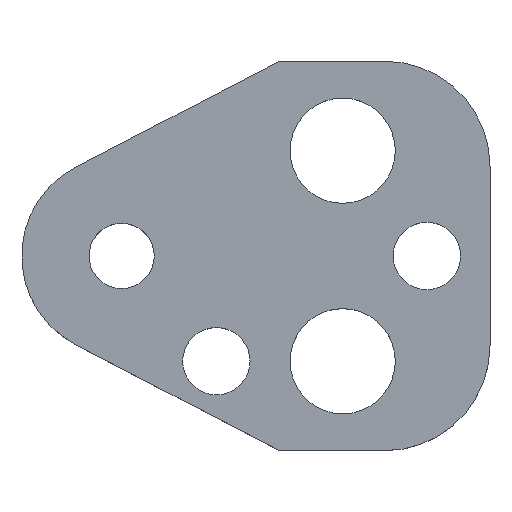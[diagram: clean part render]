
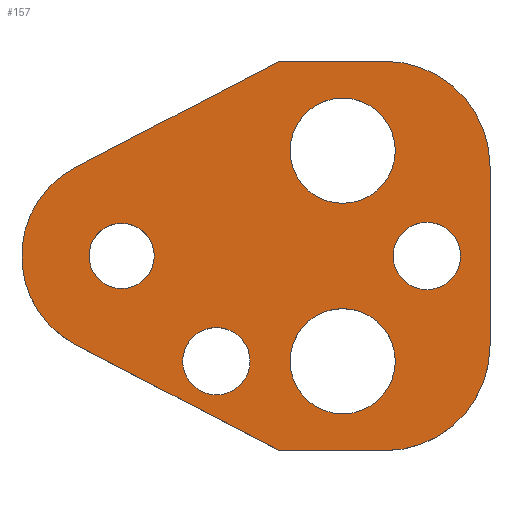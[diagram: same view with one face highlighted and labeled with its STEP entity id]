
A CAD part, top view. The second image highlights one B-rep face of the part: STEP entity #157.
In plain terms, the highlighted planar face has unit normal (0, 0, 1).
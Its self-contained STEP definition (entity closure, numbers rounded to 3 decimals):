
#103=FACE_BOUND('',#207,.T.);
#104=FACE_BOUND('',#208,.T.);
#105=FACE_BOUND('',#209,.T.);
#106=FACE_BOUND('',#210,.T.);
#107=FACE_BOUND('',#211,.T.);
#108=FACE_BOUND('',#212,.T.);
#122=CIRCLE('',#480,10.);
#124=CIRCLE('',#484,10.);
#127=CIRCLE('',#490,9.5);
#138=CIRCLE('',#503,3.2);
#139=CIRCLE('',#504,3.2);
#140=CIRCLE('',#505,5.);
#141=CIRCLE('',#506,5.);
#142=CIRCLE('',#507,5.);
#143=CIRCLE('',#508,5.);
#144=CIRCLE('',#509,3.2);
#145=CIRCLE('',#510,3.2);
#146=CIRCLE('',#511,3.1);
#147=CIRCLE('',#512,3.1);
#157=ADVANCED_FACE('',(#103,#104,#105,#106,#107,#108),#174,.T.);
#174=PLANE('',#513);
#207=EDGE_LOOP('',(#273,#274,#275,#276,#277,#278,#279,#280));
#208=EDGE_LOOP('',(#281,#282));
#209=EDGE_LOOP('',(#283,#284));
#210=EDGE_LOOP('',(#285,#286));
#211=EDGE_LOOP('',(#287,#288));
#212=EDGE_LOOP('',(#289,#290));
#273=ORIENTED_EDGE('',*,*,#368,.T.);
#274=ORIENTED_EDGE('',*,*,#372,.T.);
#275=ORIENTED_EDGE('',*,*,#375,.T.);
#276=ORIENTED_EDGE('',*,*,#378,.T.);
#277=ORIENTED_EDGE('',*,*,#381,.T.);
#278=ORIENTED_EDGE('',*,*,#384,.T.);
#279=ORIENTED_EDGE('',*,*,#387,.T.);
#280=ORIENTED_EDGE('',*,*,#390,.T.);
#281=ORIENTED_EDGE('',*,*,#401,.T.);
#282=ORIENTED_EDGE('',*,*,#402,.T.);
#283=ORIENTED_EDGE('',*,*,#403,.T.);
#284=ORIENTED_EDGE('',*,*,#404,.T.);
#285=ORIENTED_EDGE('',*,*,#405,.T.);
#286=ORIENTED_EDGE('',*,*,#406,.T.);
#287=ORIENTED_EDGE('',*,*,#407,.T.);
#288=ORIENTED_EDGE('',*,*,#408,.T.);
#289=ORIENTED_EDGE('',*,*,#409,.T.);
#290=ORIENTED_EDGE('',*,*,#410,.T.);
#332=VERTEX_POINT('',#649);
#333=VERTEX_POINT('',#651);
#336=VERTEX_POINT('',#658);
#338=VERTEX_POINT('',#664);
#340=VERTEX_POINT('',#670);
#342=VERTEX_POINT('',#676);
#344=VERTEX_POINT('',#682);
#346=VERTEX_POINT('',#688);
#357=VERTEX_POINT('',#717);
#358=VERTEX_POINT('',#718);
#359=VERTEX_POINT('',#721);
#360=VERTEX_POINT('',#722);
#361=VERTEX_POINT('',#725);
#362=VERTEX_POINT('',#726);
#363=VERTEX_POINT('',#729);
#364=VERTEX_POINT('',#730);
#365=VERTEX_POINT('',#733);
#366=VERTEX_POINT('',#734);
#368=EDGE_CURVE('',#333,#332,#422,.T.);
#372=EDGE_CURVE('',#332,#336,#426,.T.);
#375=EDGE_CURVE('',#336,#338,#122,.T.);
#378=EDGE_CURVE('',#338,#340,#430,.T.);
#381=EDGE_CURVE('',#340,#342,#124,.T.);
#384=EDGE_CURVE('',#342,#344,#434,.T.);
#387=EDGE_CURVE('',#344,#346,#437,.T.);
#390=EDGE_CURVE('',#346,#333,#127,.T.);
#401=EDGE_CURVE('',#357,#358,#138,.T.);
#402=EDGE_CURVE('',#358,#357,#139,.T.);
#403=EDGE_CURVE('',#359,#360,#140,.T.);
#404=EDGE_CURVE('',#360,#359,#141,.T.);
#405=EDGE_CURVE('',#361,#362,#142,.T.);
#406=EDGE_CURVE('',#362,#361,#143,.T.);
#407=EDGE_CURVE('',#363,#364,#144,.T.);
#408=EDGE_CURVE('',#364,#363,#145,.T.);
#409=EDGE_CURVE('',#365,#366,#146,.T.);
#410=EDGE_CURVE('',#366,#365,#147,.T.);
#422=LINE('',#650,#450);
#426=LINE('',#659,#454);
#430=LINE('',#671,#458);
#434=LINE('',#683,#462);
#437=LINE('',#689,#465);
#450=VECTOR('',#527,1.);
#454=VECTOR('',#533,1.);
#458=VECTOR('',#545,1.);
#462=VECTOR('',#557,1.);
#465=VECTOR('',#562,1.);
#480=AXIS2_PLACEMENT_3D('',#665,#538,#539);
#484=AXIS2_PLACEMENT_3D('',#677,#550,#551);
#490=AXIS2_PLACEMENT_3D('',#693,#568,#569);
#503=AXIS2_PLACEMENT_3D('',#716,#594,#595);
#504=AXIS2_PLACEMENT_3D('',#719,#596,#597);
#505=AXIS2_PLACEMENT_3D('',#720,#598,#599);
#506=AXIS2_PLACEMENT_3D('',#723,#600,#601);
#507=AXIS2_PLACEMENT_3D('',#724,#602,#603);
#508=AXIS2_PLACEMENT_3D('',#727,#604,#605);
#509=AXIS2_PLACEMENT_3D('',#728,#606,#607);
#510=AXIS2_PLACEMENT_3D('',#731,#608,#609);
#511=AXIS2_PLACEMENT_3D('',#732,#610,#611);
#512=AXIS2_PLACEMENT_3D('',#735,#612,#613);
#513=AXIS2_PLACEMENT_3D('',#736,#614,#615);
#527=DIRECTION('',(0.887,-0.461,0.));
#533=DIRECTION('',(1.,0.,0.));
#538=DIRECTION('',(0.,0.,1.));
#539=DIRECTION('',(-0.707,0.707,0.));
#545=DIRECTION('',(0.,1.,0.));
#550=DIRECTION('',(0.,0.,1.));
#551=DIRECTION('',(-0.707,-0.707,0.));
#557=DIRECTION('',(-1.,0.,0.));
#562=DIRECTION('',(-0.887,-0.461,0.));
#568=DIRECTION('',(0.,0.,1.));
#569=DIRECTION('',(1.,0.,0.));
#594=DIRECTION('',(0.,0.,-1.));
#595=DIRECTION('',(-1.,0.,0.));
#596=DIRECTION('',(0.,0.,-1.));
#597=DIRECTION('',(1.,0.,0.));
#598=DIRECTION('',(0.,0.,-1.));
#599=DIRECTION('',(-1.,0.,0.));
#600=DIRECTION('',(0.,0.,-1.));
#601=DIRECTION('',(1.,0.,0.));
#602=DIRECTION('',(0.,0.,-1.));
#603=DIRECTION('',(-1.,0.,0.));
#604=DIRECTION('',(0.,0.,-1.));
#605=DIRECTION('',(1.,0.,0.));
#606=DIRECTION('',(0.,0.,-1.));
#607=DIRECTION('',(-1.,0.,0.));
#608=DIRECTION('',(0.,0.,-1.));
#609=DIRECTION('',(1.,0.,0.));
#610=DIRECTION('',(0.,0.,-1.));
#611=DIRECTION('',(-1.,0.,0.));
#612=DIRECTION('',(0.,0.,-1.));
#613=DIRECTION('',(1.,0.,0.));
#614=DIRECTION('',(0.,0.,1.));
#615=DIRECTION('',(0.887,-0.461,0.));
#649=CARTESIAN_POINT('',(15.,-18.5,6.));
#650=CARTESIAN_POINT('',(15.,-18.5,6.));
#651=CARTESIAN_POINT('',(-4.38,-8.43,6.));
#658=CARTESIAN_POINT('',(25.,-18.5,6.));
#659=CARTESIAN_POINT('',(15.,-18.5,6.));
#664=CARTESIAN_POINT('',(35.,-8.5,6.));
#665=CARTESIAN_POINT('',(25.,-8.5,6.));
#670=CARTESIAN_POINT('',(35.,8.5,6.));
#671=CARTESIAN_POINT('',(35.,8.5,6.));
#676=CARTESIAN_POINT('',(25.,18.5,6.));
#677=CARTESIAN_POINT('',(25.,8.5,6.));
#682=CARTESIAN_POINT('',(15.,18.5,6.));
#683=CARTESIAN_POINT('',(15.,18.5,6.));
#688=CARTESIAN_POINT('',(-4.38,8.43,6.));
#689=CARTESIAN_POINT('',(15.,18.5,6.));
#693=CARTESIAN_POINT('',(0.,0.,6.));
#716=CARTESIAN_POINT('',(29.,0.,6.));
#717=CARTESIAN_POINT('',(29.,3.2,6.));
#718=CARTESIAN_POINT('',(29.,-3.2,6.));
#719=CARTESIAN_POINT('',(29.,0.,6.));
#720=CARTESIAN_POINT('',(21.,10.,6.));
#721=CARTESIAN_POINT('',(21.,15.,6.));
#722=CARTESIAN_POINT('',(21.,5.,6.));
#723=CARTESIAN_POINT('',(21.,10.,6.));
#724=CARTESIAN_POINT('',(21.,-10.,6.));
#725=CARTESIAN_POINT('',(21.,-5.,6.));
#726=CARTESIAN_POINT('',(21.,-15.,6.));
#727=CARTESIAN_POINT('',(21.,-10.,6.));
#728=CARTESIAN_POINT('',(9.,-10.,6.));
#729=CARTESIAN_POINT('',(9.,-6.8,6.));
#730=CARTESIAN_POINT('',(9.,-13.2,6.));
#731=CARTESIAN_POINT('',(9.,-10.,6.));
#732=CARTESIAN_POINT('',(0.,0.,6.));
#733=CARTESIAN_POINT('',(0.,3.1,6.));
#734=CARTESIAN_POINT('',(0.,-3.1,6.));
#735=CARTESIAN_POINT('',(0.,0.,6.));
#736=CARTESIAN_POINT('',(-4.38,-8.43,6.));
